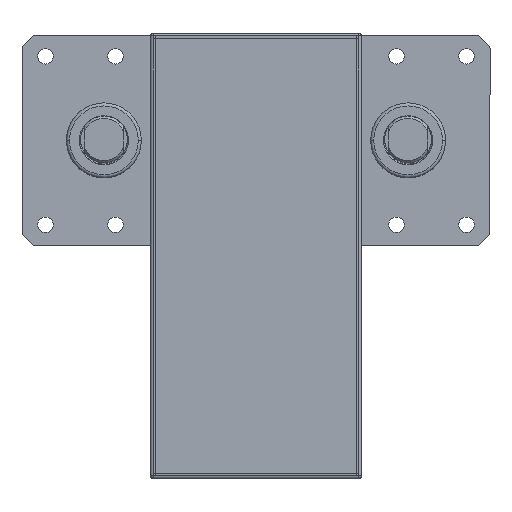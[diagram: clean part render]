
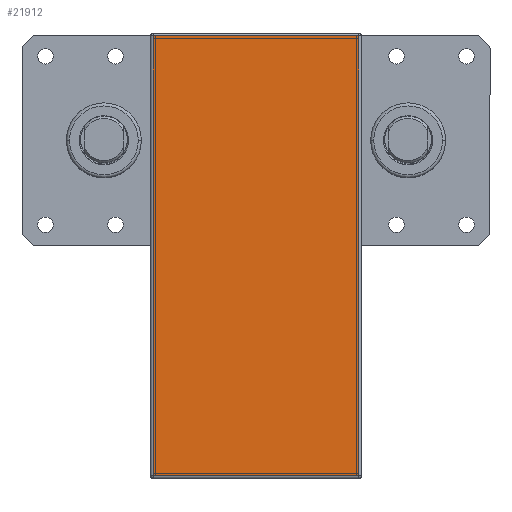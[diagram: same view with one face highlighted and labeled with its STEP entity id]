
A CAD part, top view. The second image highlights one B-rep face of the part: STEP entity #21912.
In plain terms, the highlighted planar face has unit normal (0, 0, 1).
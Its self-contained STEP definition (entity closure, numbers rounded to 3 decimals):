
#28 = DIRECTION ( 'NONE',  ( 1., 0., 0. ) ) ;
#468 = VECTOR ( 'NONE', #16057, 1000. ) ;
#701 = CARTESIAN_POINT ( 'NONE',  ( 44., -144., 371. ) ) ;
#1631 = ORIENTED_EDGE ( 'NONE', *, *, #3494, .T. ) ;
#1708 = DIRECTION ( 'NONE',  ( 1., 0., 0. ) ) ;
#1831 = CARTESIAN_POINT ( 'NONE',  ( -44., 44., 371. ) ) ;
#3145 = VECTOR ( 'NONE', #1708, 1000. ) ;
#3494 = EDGE_CURVE ( 'NONE', #13869, #19393, #26998, .T. ) ;
#5658 = VECTOR ( 'NONE', #31775, 1000. ) ;
#9123 = DIRECTION ( 'NONE',  ( 0., -1., 0. ) ) ;
#9446 = CARTESIAN_POINT ( 'NONE',  ( -44., 44., 371. ) ) ;
#11642 = EDGE_LOOP ( 'NONE', ( #34025, #42677, #1631, #24936 ) ) ;
#11921 = LINE ( 'NONE', #38837, #28585 ) ;
#12982 = CARTESIAN_POINT ( 'NONE',  ( -44., -144., 371. ) ) ;
#13869 = VERTEX_POINT ( 'NONE', #701 ) ;
#14029 = EDGE_CURVE ( 'NONE', #19411, #13869, #14103, .T. ) ;
#14103 = LINE ( 'NONE', #41566, #3145 ) ;
#16057 = DIRECTION ( 'NONE',  ( 0., 1., 0. ) ) ;
#18738 = FACE_OUTER_BOUND ( 'NONE', #11642, .T. ) ;
#19393 = VERTEX_POINT ( 'NONE', #32773 ) ;
#19411 = VERTEX_POINT ( 'NONE', #12982 ) ;
#19957 = DIRECTION ( 'NONE',  ( 0., 0., 1. ) ) ;
#21912 = ADVANCED_FACE ( 'NONE', ( #18738 ), #36418, .T. ) ;
#24936 = ORIENTED_EDGE ( 'NONE', *, *, #29842, .T. ) ;
#26509 = CARTESIAN_POINT ( 'NONE',  ( -44., -144., 371. ) ) ;
#26998 = LINE ( 'NONE', #32655, #468 ) ;
#28585 = VECTOR ( 'NONE', #9123, 1000. ) ;
#28910 = VERTEX_POINT ( 'NONE', #9446 ) ;
#29842 = EDGE_CURVE ( 'NONE', #19393, #28910, #41077, .T. ) ;
#31775 = DIRECTION ( 'NONE',  ( -1., 0., 0. ) ) ;
#32655 = CARTESIAN_POINT ( 'NONE',  ( 44., 44., 371. ) ) ;
#32773 = CARTESIAN_POINT ( 'NONE',  ( 44., 44., 371. ) ) ;
#34025 = ORIENTED_EDGE ( 'NONE', *, *, #35686, .T. ) ;
#34260 = AXIS2_PLACEMENT_3D ( 'NONE', #26509, #19957, #28 ) ;
#35686 = EDGE_CURVE ( 'NONE', #28910, #19411, #11921, .T. ) ;
#36418 = PLANE ( 'NONE',  #34260 ) ;
#38837 = CARTESIAN_POINT ( 'NONE',  ( -44., -144., 371. ) ) ;
#41077 = LINE ( 'NONE', #1831, #5658 ) ;
#41566 = CARTESIAN_POINT ( 'NONE',  ( 44., -144., 371. ) ) ;
#42677 = ORIENTED_EDGE ( 'NONE', *, *, #14029, .T. ) ;
